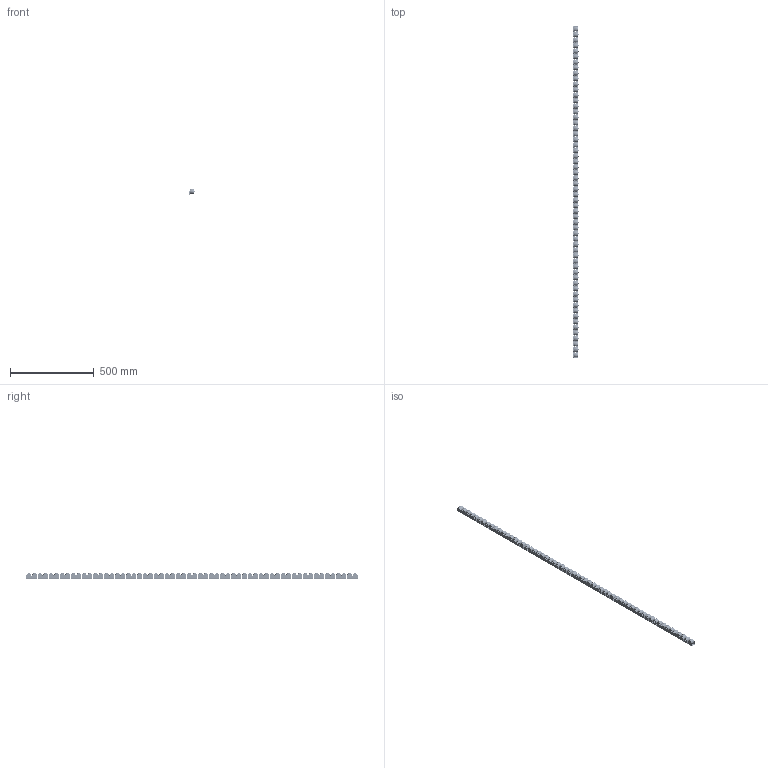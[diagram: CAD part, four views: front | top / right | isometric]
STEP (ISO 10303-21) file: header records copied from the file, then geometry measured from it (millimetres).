
FILE_DESCRIPTION(/* description */ ('Unknown'),/* implementation_level */ '2;1');
FILE_NAME(/* name */ 'T100G-BB(08.09.20)',/* time_stamp */ '2021-12-02T12:21:48+01:00',/* author */ ('Unknown'),/* organization */ ('Unknown'),/* preprocessor_version */ 'ST-DEVELOPER v16.7',/* originating_system */ 'Solid Edge',/* authorisation */ 'Unknown');
FILE_SCHEMA (('AUTOMOTIVE_DESIGN {1 0 10303 214 3 1 1}'));
Length unit declared in the file: millimetre
Products named in the file (6): T100G-BB(08.09.20); 1738-00-01-02-listwa pojedyncza rolka-10.03; Nit-2.; Rolka T 100G; 790-02-01; 790-02-02
Assembly tree (124 placements, depth 3):
  T100G-BB(08.09.20)
    1738-00-01-02-listwa pojedyncza rolka-10.03
    Nit-2.  x61
    Rolka T 100G  x60
      790-02-01
      790-02-02
Bounding box: 31 x 1983 x 34.88 mm (x, y, z)
Volume: 1022612.1 mm3; surface area: 822820.9 mm2
Topology: 182 solids, 182 shells, 6852 faces, 18205 edges, 11959 vertices
Faces by surface type: plane 5106, cylinder 1444, torus 182, cone 120
Full cylindrical faces by diameter (mm): 2 x61, 5 x61, 5.2 x120, 5.3 x60, 6 x122, 11.5 x120, 16 x120, 20 x120
Entity records: 48635 total; most frequent: DIRECTION 8904, CARTESIAN_POINT 8159, ORIENTED_EDGE 7886, EDGE_CURVE 3943, AXIS2_PLACEMENT_3D 3304, VERTEX_POINT 2559, LINE 2296, VECTOR 2296
